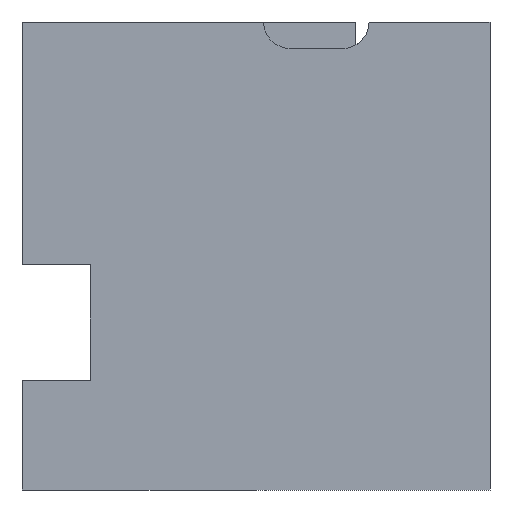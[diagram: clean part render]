
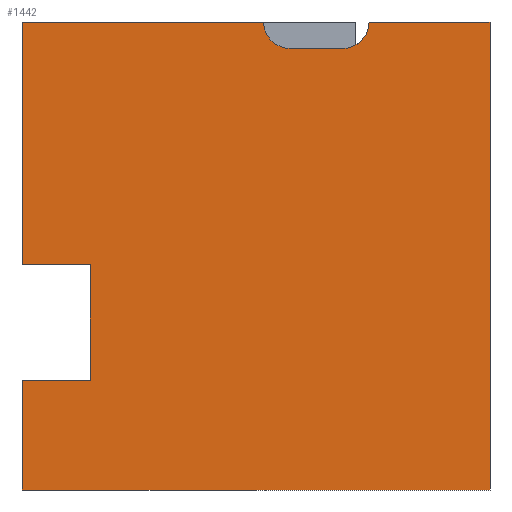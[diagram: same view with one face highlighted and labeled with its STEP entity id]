
A CAD part, left-side view. The second image highlights one B-rep face of the part: STEP entity #1442.
In plain terms, the highlighted planar face has unit normal (-1, 0, 0).
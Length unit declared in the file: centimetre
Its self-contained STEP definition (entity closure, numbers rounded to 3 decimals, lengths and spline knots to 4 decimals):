
#33 = VECTOR ( 'NONE', #458, 100. ) ;
#72 = LINE ( 'NONE', #850, #1556 ) ;
#110 = EDGE_CURVE ( 'NONE', #968, #630, #990, .T. ) ;
#112 = EDGE_CURVE ( 'NONE', #185, #818, #1259, .T. ) ;
#143 = EDGE_CURVE ( 'NONE', #1418, #1672, #72, .T. ) ;
#168 = VERTEX_POINT ( 'NONE', #1269 ) ;
#170 = CARTESIAN_POINT ( 'NONE',  ( 0., 854.1981, 234.0373 ) ) ;
#185 = VERTEX_POINT ( 'NONE', #1145 ) ;
#200 = CARTESIAN_POINT ( 'NONE',  ( 0., 1000., 1000. ) ) ;
#220 = CARTESIAN_POINT ( 'NONE',  ( 0., 1000., 1000. ) ) ;
#221 = VERTEX_POINT ( 'NONE', #386 ) ;
#233 = CARTESIAN_POINT ( 'NONE',  ( 0., 1000., 1000. ) ) ;
#242 = DIRECTION ( 'NONE',  ( 0., 0., -1. ) ) ;
#246 = CARTESIAN_POINT ( 'NONE',  ( 0., 1000., 0. ) ) ;
#258 = CARTESIAN_POINT ( 'NONE',  ( 0., 314.9812, 943.4087 ) ) ;
#325 = CIRCLE ( 'NONE', #892, 56.5913 ) ;
#367 = AXIS2_PLACEMENT_3D ( 'NONE', #467, #623, #1649 ) ;
#382 = CARTESIAN_POINT ( 'NONE',  ( 0., 483.5623, 1000. ) ) ;
#386 = CARTESIAN_POINT ( 'NONE',  ( 0., 0., 0. ) ) ;
#387 = CARTESIAN_POINT ( 'NONE',  ( 0., 854.1981, 481.6484 ) ) ;
#443 = DIRECTION ( 'NONE',  ( 0., -1., 0. ) ) ;
#458 = DIRECTION ( 'NONE',  ( 0., 0., -1. ) ) ;
#463 = EDGE_LOOP ( 'NONE', ( #1407, #1361, #611, #808, #1408, #1481, #586, #1385, #1248, #1142, #1036, #1618 ) ) ;
#467 = CARTESIAN_POINT ( 'NONE',  ( 0., 314.9812, 1000. ) ) ;
#476 = VECTOR ( 'NONE', #1628, 100. ) ;
#490 = CARTESIAN_POINT ( 'NONE',  ( 0., 1000., 1000. ) ) ;
#499 = DIRECTION ( 'NONE',  ( 0., 0., -1. ) ) ;
#516 = EDGE_CURVE ( 'NONE', #818, #732, #1467, .T. ) ;
#527 = VERTEX_POINT ( 'NONE', #1519 ) ;
#556 = EDGE_CURVE ( 'NONE', #1523, #221, #1365, .T. ) ;
#561 = VECTOR ( 'NONE', #1168, 100. ) ;
#564 = VECTOR ( 'NONE', #1069, 100. ) ;
#577 = EDGE_CURVE ( 'NONE', #630, #1523, #751, .T. ) ;
#586 = ORIENTED_EDGE ( 'NONE', *, *, #110, .F. ) ;
#588 = AXIS2_PLACEMENT_3D ( 'NONE', #220, #1400, #242 ) ;
#604 = CARTESIAN_POINT ( 'NONE',  ( 0., 0., 1000. ) ) ;
#609 = EDGE_CURVE ( 'NONE', #1418, #945, #1267, .T. ) ;
#611 = ORIENTED_EDGE ( 'NONE', *, *, #516, .T. ) ;
#623 = DIRECTION ( 'NONE',  ( -1., 0., 0. ) ) ;
#630 = VERTEX_POINT ( 'NONE', #1251 ) ;
#637 = LINE ( 'NONE', #258, #561 ) ;
#670 = EDGE_CURVE ( 'NONE', #945, #527, #325, .T. ) ;
#732 = VERTEX_POINT ( 'NONE', #246 ) ;
#751 = LINE ( 'NONE', #490, #1550 ) ;
#767 = CARTESIAN_POINT ( 'NONE',  ( 0., 0., 1000. ) ) ;
#808 = ORIENTED_EDGE ( 'NONE', *, *, #1314, .T. ) ;
#818 = VERTEX_POINT ( 'NONE', #1447 ) ;
#822 = LINE ( 'NONE', #170, #564 ) ;
#836 = LINE ( 'NONE', #1598, #882 ) ;
#837 = EDGE_CURVE ( 'NONE', #168, #185, #822, .T. ) ;
#840 = CARTESIAN_POINT ( 'NONE',  ( 0., 314.9812, 943.4087 ) ) ;
#850 = CARTESIAN_POINT ( 'NONE',  ( 0., 1000., 1000. ) ) ;
#869 = CARTESIAN_POINT ( 'NONE',  ( 0., 854.1981, 234.0373 ) ) ;
#882 = VECTOR ( 'NONE', #443, 100. ) ;
#892 = AXIS2_PLACEMENT_3D ( 'NONE', #1020, #1542, #1279 ) ;
#945 = VERTEX_POINT ( 'NONE', #382 ) ;
#968 = VERTEX_POINT ( 'NONE', #840 ) ;
#990 = CIRCLE ( 'NONE', #367, 56.5913 ) ;
#1008 = FACE_OUTER_BOUND ( 'NONE', #463, .T. ) ;
#1015 = PLANE ( 'NONE',  #588 ) ;
#1020 = CARTESIAN_POINT ( 'NONE',  ( 0., 426.971, 1000. ) ) ;
#1036 = ORIENTED_EDGE ( 'NONE', *, *, #143, .T. ) ;
#1069 = DIRECTION ( 'NONE',  ( 0., 0., -1. ) ) ;
#1115 = DIRECTION ( 'NONE',  ( 0., -1., 0. ) ) ;
#1128 = CARTESIAN_POINT ( 'NONE',  ( 0., 1000., 1000. ) ) ;
#1138 = DIRECTION ( 'NONE',  ( 0., 1., 0. ) ) ;
#1142 = ORIENTED_EDGE ( 'NONE', *, *, #609, .F. ) ;
#1145 = CARTESIAN_POINT ( 'NONE',  ( 0., 854.1981, 234.0373 ) ) ;
#1152 = LINE ( 'NONE', #387, #1238 ) ;
#1160 = DIRECTION ( 'NONE',  ( 0., -1., 0. ) ) ;
#1168 = DIRECTION ( 'NONE',  ( 0., -1., 0. ) ) ;
#1217 = CARTESIAN_POINT ( 'NONE',  ( 0., 1000., 481.6484 ) ) ;
#1232 = DIRECTION ( 'NONE',  ( 0., 0., -1. ) ) ;
#1238 = VECTOR ( 'NONE', #1160, 100. ) ;
#1248 = ORIENTED_EDGE ( 'NONE', *, *, #670, .F. ) ;
#1251 = CARTESIAN_POINT ( 'NONE',  ( 0., 258.3899, 1000. ) ) ;
#1259 = LINE ( 'NONE', #869, #1420 ) ;
#1267 = LINE ( 'NONE', #233, #476 ) ;
#1269 = CARTESIAN_POINT ( 'NONE',  ( 0., 854.1981, 481.6484 ) ) ;
#1279 = DIRECTION ( 'NONE',  ( 0., 0., -1. ) ) ;
#1314 = EDGE_CURVE ( 'NONE', #732, #221, #836, .T. ) ;
#1361 = ORIENTED_EDGE ( 'NONE', *, *, #112, .T. ) ;
#1365 = LINE ( 'NONE', #604, #33 ) ;
#1385 = ORIENTED_EDGE ( 'NONE', *, *, #1562, .F. ) ;
#1400 = DIRECTION ( 'NONE',  ( 1., 0., 0. ) ) ;
#1407 = ORIENTED_EDGE ( 'NONE', *, *, #837, .T. ) ;
#1408 = ORIENTED_EDGE ( 'NONE', *, *, #556, .F. ) ;
#1418 = VERTEX_POINT ( 'NONE', #1128 ) ;
#1420 = VECTOR ( 'NONE', #1138, 100. ) ;
#1442 = ADVANCED_FACE ( 'NONE', ( #1008 ), #1015, .F. ) ;
#1447 = CARTESIAN_POINT ( 'NONE',  ( 0., 1000., 234.0373 ) ) ;
#1467 = LINE ( 'NONE', #200, #1502 ) ;
#1481 = ORIENTED_EDGE ( 'NONE', *, *, #577, .F. ) ;
#1502 = VECTOR ( 'NONE', #1232, 100. ) ;
#1512 = EDGE_CURVE ( 'NONE', #1672, #168, #1152, .T. ) ;
#1519 = CARTESIAN_POINT ( 'NONE',  ( 0., 426.971, 943.4087 ) ) ;
#1523 = VERTEX_POINT ( 'NONE', #767 ) ;
#1542 = DIRECTION ( 'NONE',  ( -1., 0., 0. ) ) ;
#1550 = VECTOR ( 'NONE', #1115, 100. ) ;
#1556 = VECTOR ( 'NONE', #499, 100. ) ;
#1562 = EDGE_CURVE ( 'NONE', #527, #968, #637, .T. ) ;
#1598 = CARTESIAN_POINT ( 'NONE',  ( 0., 1000., 0. ) ) ;
#1618 = ORIENTED_EDGE ( 'NONE', *, *, #1512, .T. ) ;
#1628 = DIRECTION ( 'NONE',  ( 0., -1., 0. ) ) ;
#1649 = DIRECTION ( 'NONE',  ( 0., 0., -1. ) ) ;
#1672 = VERTEX_POINT ( 'NONE', #1217 ) ;
